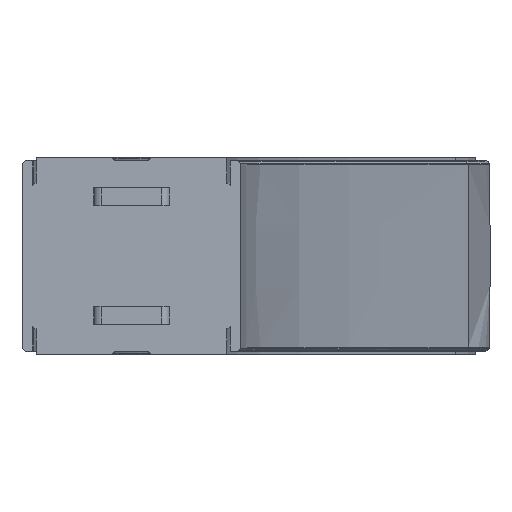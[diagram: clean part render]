
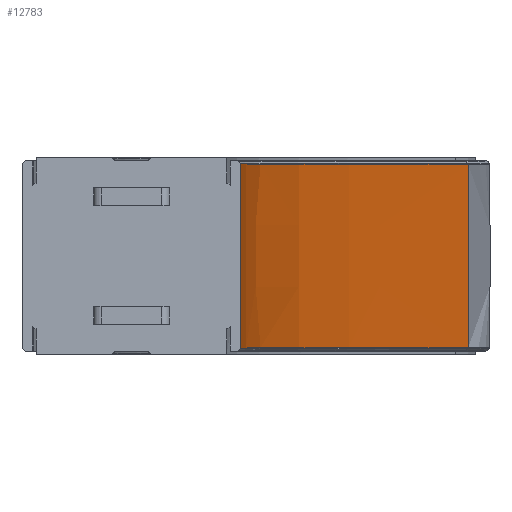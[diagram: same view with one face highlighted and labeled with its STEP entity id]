
A CAD part, left-side view. The second image highlights one B-rep face of the part: STEP entity #12783.
In plain terms, the highlighted free-form (B-spline) face has degree [3, 3] with [4, 7] control points.
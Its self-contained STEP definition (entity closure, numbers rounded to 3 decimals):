
#332 = CARTESIAN_POINT ( 'NONE',  ( -86.092, -39.611, -30.293 ) ) ;
#378 = CARTESIAN_POINT ( 'NONE',  ( -216.204, 5.566, -30.293 ) ) ;
#664 = CARTESIAN_POINT ( 'NONE',  ( -32.512, -69.46, -30.293 ) ) ;
#990 = B_SPLINE_CURVE_WITH_KNOTS ( 'NONE', 3,
 ( #664, #3120, #13228, #10953, #5227, #14838, #4916 ),
 .UNSPECIFIED., .F., .F.,
 ( 4, 1, 1, 1, 4 ),
 ( 0., 0.281, 0.561, 0.78, 1. ),
 .UNSPECIFIED. ) ;
#1369 = CARTESIAN_POINT ( 'NONE',  ( -216.204, 5.566, 30.293 ) ) ;
#1450 = CARTESIAN_POINT ( 'NONE',  ( -184.703, 2.662, -30.293 ) ) ;
#1500 = CARTESIAN_POINT ( 'NONE',  ( -50.999, -60.475, 10.098 ) ) ;
#1564 = CARTESIAN_POINT ( 'NONE',  ( -231.875, 5.8, 30.293 ) ) ;
#1671 = CARTESIAN_POINT ( 'NONE',  ( -216.618, 5.572, -10.098 ) ) ;
#2068 = VERTEX_POINT ( 'NONE', #12015 ) ;
#2138 = LINE ( 'NONE', #3539, #4600 ) ;
#2688 = CARTESIAN_POINT ( 'NONE',  ( -32.512, -69.46, -30.293 ) ) ;
#2740 = CARTESIAN_POINT ( 'NONE',  ( -231.875, 5.8, 10.098 ) ) ;
#3120 = CARTESIAN_POINT ( 'NONE',  ( -50.876, -60.535, -30.293 ) ) ;
#3364 = LINE ( 'NONE', #8986, #11870 ) ;
#3539 = CARTESIAN_POINT ( 'NONE',  ( -32.512, -69.46, 0. ) ) ;
#3894 = CARTESIAN_POINT ( 'NONE',  ( -50.999, -60.475, -10.098 ) ) ;
#4050 = CARTESIAN_POINT ( 'NONE',  ( -135.965, -13.789, 10.098 ) ) ;
#4298 = VERTEX_POINT ( 'NONE', #14397 ) ;
#4558 = ORIENTED_EDGE ( 'NONE', *, *, #5936, .T. ) ;
#4600 = VECTOR ( 'NONE', #14430, 1000. ) ;
#4916 = CARTESIAN_POINT ( 'NONE',  ( -231.875, 5.8, -30.293 ) ) ;
#5184 = CARTESIAN_POINT ( 'NONE',  ( -135.887, -13.795, -30.293 ) ) ;
#5195 = CARTESIAN_POINT ( 'NONE',  ( -135.887, -13.795, 30.293 ) ) ;
#5227 = CARTESIAN_POINT ( 'NONE',  ( -184.703, 2.662, -30.293 ) ) ;
#5284 = CARTESIAN_POINT ( 'NONE',  ( -50.876, -60.535, 30.293 ) ) ;
#5339 = CARTESIAN_POINT ( 'NONE',  ( -216.204, 5.566, 30.293 ) ) ;
#5436 = DIRECTION ( 'NONE',  ( 0., 0., 1. ) ) ;
#5671 = EDGE_LOOP ( 'NONE', ( #4558, #8178, #12022, #10584 ) ) ;
#5936 = EDGE_CURVE ( 'NONE', #12261, #15444, #2138, .T. ) ;
#6391 = CARTESIAN_POINT ( 'NONE',  ( -135.965, -13.789, -10.098 ) ) ;
#6412 = CARTESIAN_POINT ( 'NONE',  ( -86.092, -39.611, 30.293 ) ) ;
#6489 = CARTESIAN_POINT ( 'NONE',  ( -50.876, -60.535, -30.293 ) ) ;
#7600 = CARTESIAN_POINT ( 'NONE',  ( -32.512, -69.46, 10.098 ) ) ;
#8178 = ORIENTED_EDGE ( 'NONE', *, *, #12357, .T. ) ;
#8640 = B_SPLINE_CURVE_WITH_KNOTS ( 'NONE', 3,
 ( #12363, #12423, #6412, #5195, #14861, #1369, #9000 ),
 .UNSPECIFIED., .F., .F.,
 ( 4, 1, 1, 1, 4 ),
 ( 0., 0.281, 0.561, 0.78, 1. ),
 .UNSPECIFIED. ) ;
#8823 = CARTESIAN_POINT ( 'NONE',  ( -135.887, -13.795, 30.293 ) ) ;
#8885 = CARTESIAN_POINT ( 'NONE',  ( -32.512, -69.46, -10.098 ) ) ;
#8986 = CARTESIAN_POINT ( 'NONE',  ( -231.875, 5.8, 0. ) ) ;
#9000 = CARTESIAN_POINT ( 'NONE',  ( -231.875, 5.8, 30.293 ) ) ;
#9998 = CARTESIAN_POINT ( 'NONE',  ( -86.014, -39.639, 10.098 ) ) ;
#10100 = CARTESIAN_POINT ( 'NONE',  ( -86.014, -39.639, -10.098 ) ) ;
#10149 = CARTESIAN_POINT ( 'NONE',  ( -231.875, 5.8, -10.098 ) ) ;
#10244 = EDGE_CURVE ( 'NONE', #12261, #4298, #990, .T. ) ;
#10584 = ORIENTED_EDGE ( 'NONE', *, *, #10244, .F. ) ;
#10792 = CARTESIAN_POINT ( 'NONE',  ( -32.512, -69.46, 30.293 ) ) ;
#10953 = CARTESIAN_POINT ( 'NONE',  ( -135.887, -13.795, -30.293 ) ) ;
#11217 = CARTESIAN_POINT ( 'NONE',  ( -86.092, -39.611, 30.293 ) ) ;
#11870 = VECTOR ( 'NONE', #5436, 1000. ) ;
#12015 = CARTESIAN_POINT ( 'NONE',  ( -231.875, 5.8, 30.293 ) ) ;
#12022 = ORIENTED_EDGE ( 'NONE', *, *, #12851, .F. ) ;
#12261 = VERTEX_POINT ( 'NONE', #13659 ) ;
#12347 = CARTESIAN_POINT ( 'NONE',  ( -216.617, 5.572, 10.098 ) ) ;
#12357 = EDGE_CURVE ( 'NONE', #15444, #2068, #8640, .T. ) ;
#12363 = CARTESIAN_POINT ( 'NONE',  ( -32.512, -69.46, 30.293 ) ) ;
#12423 = CARTESIAN_POINT ( 'NONE',  ( -50.876, -60.535, 30.293 ) ) ;
#12507 = CARTESIAN_POINT ( 'NONE',  ( -184.51, 2.657, 10.098 ) ) ;
#12550 = CARTESIAN_POINT ( 'NONE',  ( -32.512, -69.46, 30.293 ) ) ;
#12631 = B_SPLINE_SURFACE_WITH_KNOTS ( 'NONE', 3, 3, ( 
 ( #2688, #6489, #332, #5184, #1450, #378, #13756 ),
 ( #8885, #3894, #10100, #6391, #14845, #1671, #10149 ),
 ( #7600, #1500, #9998, #4050, #12507, #12347, #2740 ),
 ( #12550, #5284, #11217, #8823, #14946, #5339, #1564 ) ),
 .UNSPECIFIED., .F., .F., .F.,
 ( 4, 4 ),
 ( 4, 1, 1, 1, 4 ),
 ( 0.078, 0.464 ),
 ( 0., 0.281, 0.561, 0.78, 1. ),
 .UNSPECIFIED. ) ;
#12783 = ADVANCED_FACE ( 'NONE', ( #14528 ), #12631, .T. ) ;
#12851 = EDGE_CURVE ( 'NONE', #4298, #2068, #3364, .T. ) ;
#13228 = CARTESIAN_POINT ( 'NONE',  ( -86.092, -39.611, -30.293 ) ) ;
#13659 = CARTESIAN_POINT ( 'NONE',  ( -32.512, -69.46, -30.293 ) ) ;
#13756 = CARTESIAN_POINT ( 'NONE',  ( -231.875, 5.8, -30.293 ) ) ;
#14397 = CARTESIAN_POINT ( 'NONE',  ( -231.875, 5.8, -30.293 ) ) ;
#14430 = DIRECTION ( 'NONE',  ( 0., 0., 1. ) ) ;
#14528 = FACE_OUTER_BOUND ( 'NONE', #5671, .T. ) ;
#14838 = CARTESIAN_POINT ( 'NONE',  ( -216.204, 5.566, -30.293 ) ) ;
#14845 = CARTESIAN_POINT ( 'NONE',  ( -184.51, 2.657, -10.098 ) ) ;
#14861 = CARTESIAN_POINT ( 'NONE',  ( -184.703, 2.662, 30.293 ) ) ;
#14946 = CARTESIAN_POINT ( 'NONE',  ( -184.703, 2.662, 30.293 ) ) ;
#15444 = VERTEX_POINT ( 'NONE', #10792 ) ;
